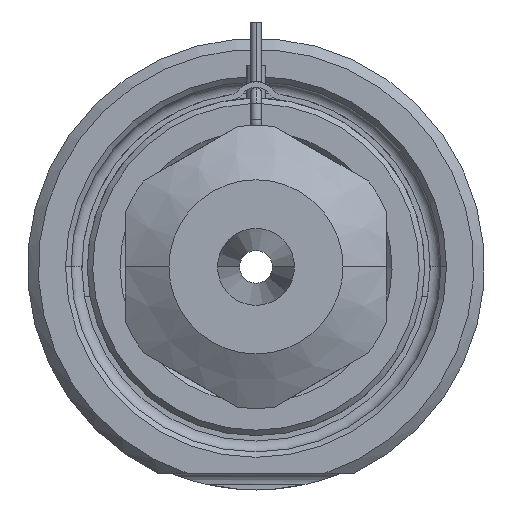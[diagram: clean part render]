
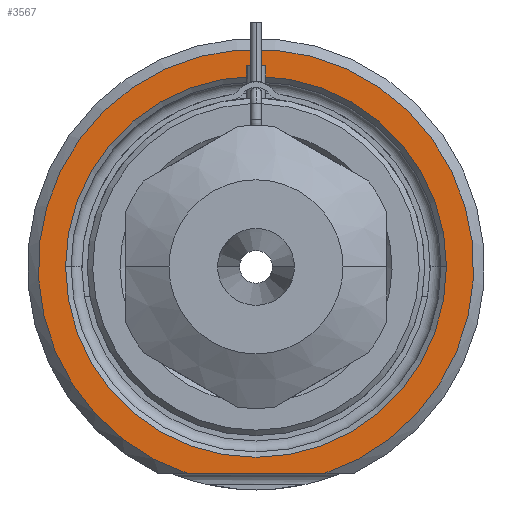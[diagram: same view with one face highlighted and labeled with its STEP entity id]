
A CAD part, front view. The second image highlights one B-rep face of the part: STEP entity #3567.
In plain terms, the highlighted planar face has unit normal (0, -1, 0).
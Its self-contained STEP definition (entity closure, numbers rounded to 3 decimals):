
#708=DIRECTION('',(1.,0.,0.));
#709=VECTOR('',#708,12.49);
#710=CARTESIAN_POINT('',(-6.245,0.,-19.));
#711=LINE('',#710,#709);
#712=CARTESIAN_POINT('',(0.,0.,0.));
#713=DIRECTION('',(0.,1.,0.));
#714=DIRECTION('',(-1.,0.,0.));
#715=AXIS2_PLACEMENT_3D('',#712,#713,#714);
#717=CARTESIAN_POINT('',(0.,0.,0.));
#718=DIRECTION('',(0.,1.,0.));
#719=DIRECTION('',(1.,0.,0.));
#720=AXIS2_PLACEMENT_3D('',#717,#718,#719);
#826=CARTESIAN_POINT('',(0.,0.,0.));
#827=DIRECTION('',(0.,-1.,0.));
#828=DIRECTION('',(0.312,0.,-0.95));
#829=AXIS2_PLACEMENT_3D('',#826,#827,#828);
#2392=CARTESIAN_POINT('',(-17.5,0.,0.));
#2393=CARTESIAN_POINT('',(17.5,0.,0.));
#2394=VERTEX_POINT('',#2392);
#2395=VERTEX_POINT('',#2393);
#2450=CARTESIAN_POINT('',(-6.245,0.,-19.));
#2451=CARTESIAN_POINT('',(6.245,0.,-19.));
#2452=VERTEX_POINT('',#2450);
#2453=VERTEX_POINT('',#2451);
#3551=CARTESIAN_POINT('',(0.,0.,0.));
#3552=DIRECTION('',(0.,-1.,0.));
#3553=DIRECTION('',(1.,0.,0.));
#3554=AXIS2_PLACEMENT_3D('',#3551,#3552,#3553);
#3555=PLANE('',#3554);
#3557=ORIENTED_EDGE('',*,*,#3556,.F.);
#3559=ORIENTED_EDGE('',*,*,#3558,.F.);
#3560=EDGE_LOOP('',(#3557,#3559));
#3561=FACE_OUTER_BOUND('',#3560,.F.);
#3562=ORIENTED_EDGE('',*,*,#3541,.F.);
#3564=ORIENTED_EDGE('',*,*,#3563,.F.);
#3565=EDGE_LOOP('',(#3562,#3564));
#3566=FACE_BOUND('',#3565,.F.);
#3567=ADVANCED_FACE('',(#3561,#3566),#3555,.T.);
#716=CIRCLE('',#715,17.5);
#721=CIRCLE('',#720,17.5);
#830=CIRCLE('',#829,20.);
#3541=EDGE_CURVE('',#2394,#2395,#716,.T.);
#3556=EDGE_CURVE('',#2452,#2453,#711,.T.);
#3558=EDGE_CURVE('',#2453,#2452,#830,.T.);
#3563=EDGE_CURVE('',#2395,#2394,#721,.T.);
